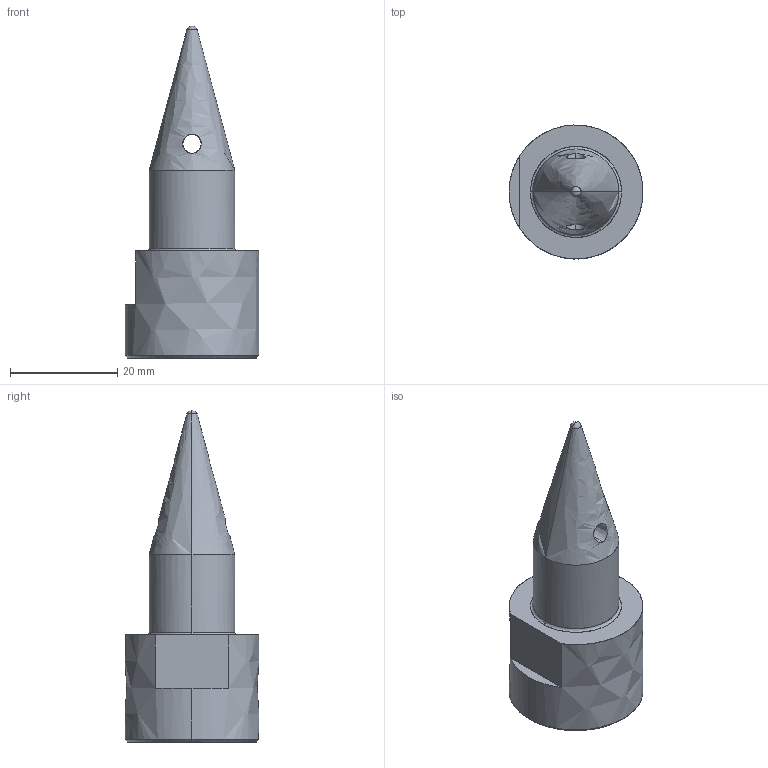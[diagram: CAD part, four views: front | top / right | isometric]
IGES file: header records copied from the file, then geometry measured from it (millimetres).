
Global section: file name: E:\UnigraphicsGraphicData\MISUMI_PRESS-PARTS\IGES\3d_sdkl25_03095_r00.igs; native system: NX V5.0; preprocessor: UGS NX IGES V5.0; author: MISUMI; date: 20110105.162515; units: millimetre
Bounding box: 25 x 25.02 x 61.99 mm (x, y, z)
Surface area: 3960.1 mm2 (no closed solid volume)
Topology: 0 solids, 0 shells, 18 faces, 117 edges, 115 vertices
Faces by surface type: bspline 18
